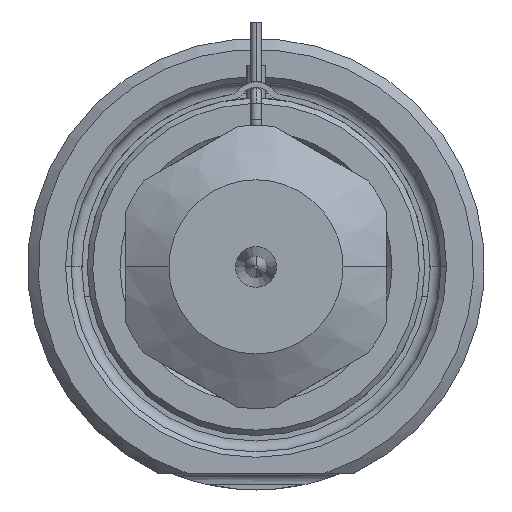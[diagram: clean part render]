
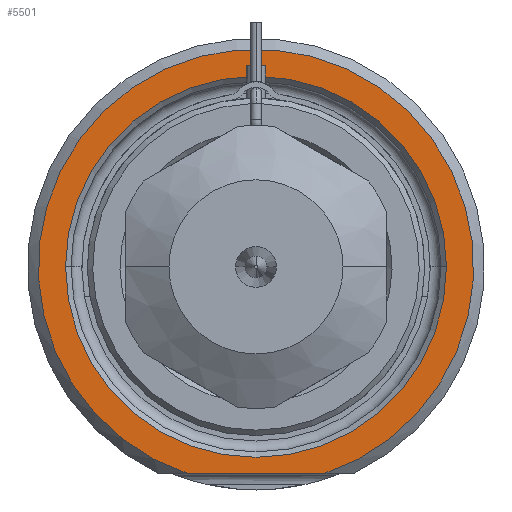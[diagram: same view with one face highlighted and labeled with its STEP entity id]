
A CAD part, front view. The second image highlights one B-rep face of the part: STEP entity #5501.
In plain terms, the highlighted planar face has unit normal (0, -1, 0).
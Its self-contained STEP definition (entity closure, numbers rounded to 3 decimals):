
#1352=DIRECTION('',(1.,0.,0.));
#1353=VECTOR('',#1352,12.49);
#1354=CARTESIAN_POINT('',(-6.245,0.,-19.));
#1355=LINE('',#1354,#1353);
#1356=CARTESIAN_POINT('',(0.,0.,0.));
#1357=DIRECTION('',(0.,1.,0.));
#1358=DIRECTION('',(-1.,0.,0.));
#1359=AXIS2_PLACEMENT_3D('',#1356,#1357,#1358);
#1361=CARTESIAN_POINT('',(0.,0.,0.));
#1362=DIRECTION('',(0.,1.,0.));
#1363=DIRECTION('',(1.,0.,0.));
#1364=AXIS2_PLACEMENT_3D('',#1361,#1362,#1363);
#1470=CARTESIAN_POINT('',(0.,0.,0.));
#1471=DIRECTION('',(0.,-1.,0.));
#1472=DIRECTION('',(0.312,0.,-0.95));
#1473=AXIS2_PLACEMENT_3D('',#1470,#1471,#1472);
#3405=CARTESIAN_POINT('',(-17.5,0.,0.));
#3406=CARTESIAN_POINT('',(17.5,0.,0.));
#3407=VERTEX_POINT('',#3405);
#3408=VERTEX_POINT('',#3406);
#3449=CARTESIAN_POINT('',(-6.245,0.,-19.));
#3450=CARTESIAN_POINT('',(6.245,0.,-19.));
#3451=VERTEX_POINT('',#3449);
#3452=VERTEX_POINT('',#3450);
#5485=CARTESIAN_POINT('',(0.,0.,0.));
#5486=DIRECTION('',(0.,-1.,0.));
#5487=DIRECTION('',(1.,0.,0.));
#5488=AXIS2_PLACEMENT_3D('',#5485,#5486,#5487);
#5489=PLANE('',#5488);
#5491=ORIENTED_EDGE('',*,*,#5490,.F.);
#5493=ORIENTED_EDGE('',*,*,#5492,.F.);
#5494=EDGE_LOOP('',(#5491,#5493));
#5495=FACE_OUTER_BOUND('',#5494,.F.);
#5496=ORIENTED_EDGE('',*,*,#5475,.F.);
#5498=ORIENTED_EDGE('',*,*,#5497,.F.);
#5499=EDGE_LOOP('',(#5496,#5498));
#5500=FACE_BOUND('',#5499,.F.);
#5501=ADVANCED_FACE('',(#5495,#5500),#5489,.T.);
#1360=CIRCLE('',#1359,17.5);
#1365=CIRCLE('',#1364,17.5);
#1474=CIRCLE('',#1473,20.);
#5475=EDGE_CURVE('',#3407,#3408,#1360,.T.);
#5490=EDGE_CURVE('',#3451,#3452,#1355,.T.);
#5492=EDGE_CURVE('',#3452,#3451,#1474,.T.);
#5497=EDGE_CURVE('',#3408,#3407,#1365,.T.);
